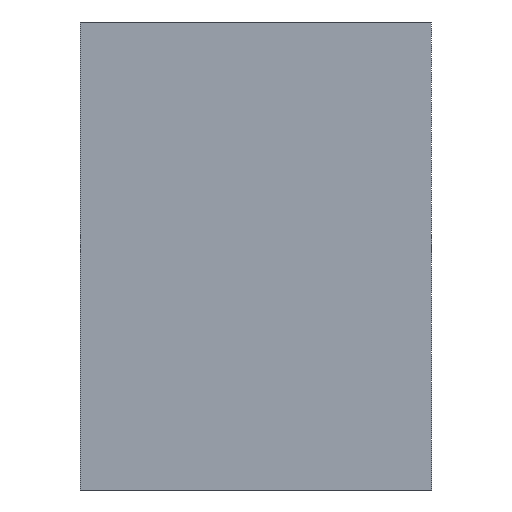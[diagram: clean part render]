
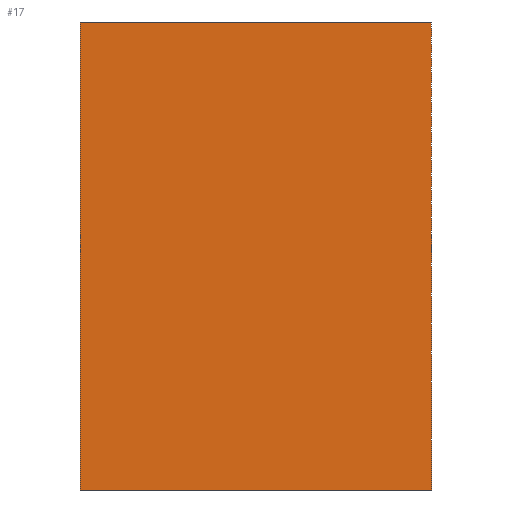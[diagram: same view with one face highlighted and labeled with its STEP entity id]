
A CAD part, left-side view. The second image highlights one B-rep face of the part: STEP entity #17.
In plain terms, the highlighted planar face has unit normal (-1, 0, 0).
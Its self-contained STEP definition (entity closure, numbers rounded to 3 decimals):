
#17 = ADVANCED_FACE('',(#18),#32,.F.);
#18 = FACE_BOUND('',#19,.F.);
#19 = EDGE_LOOP('',(#20,#55,#83,#111));
#20 = ORIENTED_EDGE('',*,*,#21,.F.);
#21 = EDGE_CURVE('',#22,#24,#26,.T.);
#22 = VERTEX_POINT('',#23);
#23 = CARTESIAN_POINT('',(-465.,-184.913,18.));
#24 = VERTEX_POINT('',#25);
#25 = CARTESIAN_POINT('',(-465.,-184.913,26.));
#26 = SURFACE_CURVE('',#27,(#31,#43),.PCURVE_S1.);
#27 = LINE('',#28,#29);
#28 = CARTESIAN_POINT('',(-465.,-184.913,18.));
#29 = VECTOR('',#30,1.);
#30 = DIRECTION('',(0.,0.,1.));
#31 = PCURVE('',#32,#37);
#32 = PLANE('',#33);
#33 = AXIS2_PLACEMENT_3D('',#34,#35,#36);
#34 = CARTESIAN_POINT('',(-465.,-184.913,18.));
#35 = DIRECTION('',(1.,0.,-0.));
#36 = DIRECTION('',(0.,0.,1.));
#37 = DEFINITIONAL_REPRESENTATION('',(#38),#42);
#38 = LINE('',#39,#40);
#39 = CARTESIAN_POINT('',(0.,0.));
#40 = VECTOR('',#41,1.);
#41 = DIRECTION('',(1.,0.));
#42 = ( GEOMETRIC_REPRESENTATION_CONTEXT(2) 
PARAMETRIC_REPRESENTATION_CONTEXT() REPRESENTATION_CONTEXT('2D SPACE',''
  ) );
#43 = PCURVE('',#44,#49);
#44 = PLANE('',#45);
#45 = AXIS2_PLACEMENT_3D('',#46,#47,#48);
#46 = CARTESIAN_POINT('',(-465.,-184.913,18.));
#47 = DIRECTION('',(-0.,1.,0.));
#48 = DIRECTION('',(0.,0.,1.));
#49 = DEFINITIONAL_REPRESENTATION('',(#50),#54);
#50 = LINE('',#51,#52);
#51 = CARTESIAN_POINT('',(0.,0.));
#52 = VECTOR('',#53,1.);
#53 = DIRECTION('',(1.,0.));
#54 = ( GEOMETRIC_REPRESENTATION_CONTEXT(2) 
PARAMETRIC_REPRESENTATION_CONTEXT() REPRESENTATION_CONTEXT('2D SPACE',''
  ) );
#55 = ORIENTED_EDGE('',*,*,#56,.T.);
#56 = EDGE_CURVE('',#22,#57,#59,.T.);
#57 = VERTEX_POINT('',#58);
#58 = CARTESIAN_POINT('',(-465.,-178.913,18.));
#59 = SURFACE_CURVE('',#60,(#64,#71),.PCURVE_S1.);
#60 = LINE('',#61,#62);
#61 = CARTESIAN_POINT('',(-465.,-184.913,18.));
#62 = VECTOR('',#63,1.);
#63 = DIRECTION('',(-0.,1.,0.));
#64 = PCURVE('',#32,#65);
#65 = DEFINITIONAL_REPRESENTATION('',(#66),#70);
#66 = LINE('',#67,#68);
#67 = CARTESIAN_POINT('',(0.,0.));
#68 = VECTOR('',#69,1.);
#69 = DIRECTION('',(0.,-1.));
#70 = ( GEOMETRIC_REPRESENTATION_CONTEXT(2) 
PARAMETRIC_REPRESENTATION_CONTEXT() REPRESENTATION_CONTEXT('2D SPACE',''
  ) );
#71 = PCURVE('',#72,#77);
#72 = PLANE('',#73);
#73 = AXIS2_PLACEMENT_3D('',#74,#75,#76);
#74 = CARTESIAN_POINT('',(-465.,-184.913,18.));
#75 = DIRECTION('',(0.,0.,1.));
#76 = DIRECTION('',(1.,0.,-0.));
#77 = DEFINITIONAL_REPRESENTATION('',(#78),#82);
#78 = LINE('',#79,#80);
#79 = CARTESIAN_POINT('',(0.,0.));
#80 = VECTOR('',#81,1.);
#81 = DIRECTION('',(0.,1.));
#82 = ( GEOMETRIC_REPRESENTATION_CONTEXT(2) 
PARAMETRIC_REPRESENTATION_CONTEXT() REPRESENTATION_CONTEXT('2D SPACE',''
  ) );
#83 = ORIENTED_EDGE('',*,*,#84,.T.);
#84 = EDGE_CURVE('',#57,#85,#87,.T.);
#85 = VERTEX_POINT('',#86);
#86 = CARTESIAN_POINT('',(-465.,-178.913,26.));
#87 = SURFACE_CURVE('',#88,(#92,#99),.PCURVE_S1.);
#88 = LINE('',#89,#90);
#89 = CARTESIAN_POINT('',(-465.,-178.913,18.));
#90 = VECTOR('',#91,1.);
#91 = DIRECTION('',(0.,0.,1.));
#92 = PCURVE('',#32,#93);
#93 = DEFINITIONAL_REPRESENTATION('',(#94),#98);
#94 = LINE('',#95,#96);
#95 = CARTESIAN_POINT('',(0.,-6.));
#96 = VECTOR('',#97,1.);
#97 = DIRECTION('',(1.,0.));
#98 = ( GEOMETRIC_REPRESENTATION_CONTEXT(2) 
PARAMETRIC_REPRESENTATION_CONTEXT() REPRESENTATION_CONTEXT('2D SPACE',''
  ) );
#99 = PCURVE('',#100,#105);
#100 = PLANE('',#101);
#101 = AXIS2_PLACEMENT_3D('',#102,#103,#104);
#102 = CARTESIAN_POINT('',(-465.,-178.913,18.));
#103 = DIRECTION('',(-0.,1.,0.));
#104 = DIRECTION('',(0.,0.,1.));
#105 = DEFINITIONAL_REPRESENTATION('',(#106),#110);
#106 = LINE('',#107,#108);
#107 = CARTESIAN_POINT('',(0.,0.));
#108 = VECTOR('',#109,1.);
#109 = DIRECTION('',(1.,0.));
#110 = ( GEOMETRIC_REPRESENTATION_CONTEXT(2) 
PARAMETRIC_REPRESENTATION_CONTEXT() REPRESENTATION_CONTEXT('2D SPACE',''
  ) );
#111 = ORIENTED_EDGE('',*,*,#112,.F.);
#112 = EDGE_CURVE('',#24,#85,#113,.T.);
#113 = SURFACE_CURVE('',#114,(#118,#125),.PCURVE_S1.);
#114 = LINE('',#115,#116);
#115 = CARTESIAN_POINT('',(-465.,-184.913,26.));
#116 = VECTOR('',#117,1.);
#117 = DIRECTION('',(-0.,1.,0.));
#118 = PCURVE('',#32,#119);
#119 = DEFINITIONAL_REPRESENTATION('',(#120),#124);
#120 = LINE('',#121,#122);
#121 = CARTESIAN_POINT('',(8.,0.));
#122 = VECTOR('',#123,1.);
#123 = DIRECTION('',(0.,-1.));
#124 = ( GEOMETRIC_REPRESENTATION_CONTEXT(2) 
PARAMETRIC_REPRESENTATION_CONTEXT() REPRESENTATION_CONTEXT('2D SPACE',''
  ) );
#125 = PCURVE('',#126,#131);
#126 = PLANE('',#127);
#127 = AXIS2_PLACEMENT_3D('',#128,#129,#130);
#128 = CARTESIAN_POINT('',(-465.,-184.913,26.));
#129 = DIRECTION('',(0.,0.,1.));
#130 = DIRECTION('',(1.,0.,-0.));
#131 = DEFINITIONAL_REPRESENTATION('',(#132),#136);
#132 = LINE('',#133,#134);
#133 = CARTESIAN_POINT('',(0.,0.));
#134 = VECTOR('',#135,1.);
#135 = DIRECTION('',(0.,1.));
#136 = ( GEOMETRIC_REPRESENTATION_CONTEXT(2) 
PARAMETRIC_REPRESENTATION_CONTEXT() REPRESENTATION_CONTEXT('2D SPACE',''
  ) );
